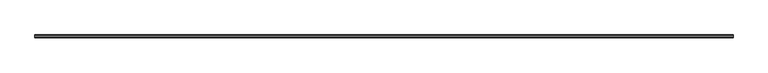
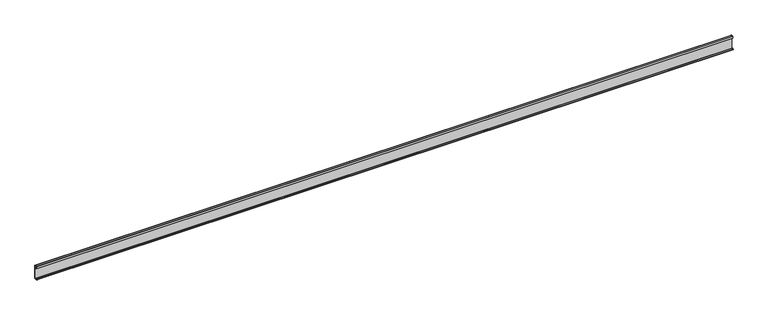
"""IFC4 building model written with IfcOpenShell, lengths in millimetres: proxy geometry, Weiku - Montante - Capa de folha 02.3.02.406 : Weiku - Montante - Capa de folha 02.3.02.406."""

from ifc_helpers import new_model, si_unit, point, frame, frame_2d, origin, place, context, project, spatial, polyline, circle_curve, trimmed, segment, composite_curve, outline, extrude, source, transform, mapped, element, save


def generic_models_bcc841bf(model_context):
    return source(origin(), model_context, "Body", "SweptSolid", [
        extrude(outline(composite_curve([segment(polyline([(-4.6421508, 2.2715508), (-3.3866, 1.016), (-1.6933, 1.016), (-1.6933, 25.684), (-3.3063, 25.684), (-3.3063, 22.3396), (-4.28, 22.3396), (-4.28, 26.2)]), True, "CONTINUOUS"), segment(trimmed(circle_curve(frame_2d((-3.78, 26.2)), 0.5), [point((-4.28, 26.2))], [point((-3.78, 26.7))], False, "CARTESIAN"), True, "CONTINUOUS"), segment(polyline([(-3.78, 26.7), (-0.5, 26.7)]), True, "CONTINUOUS"), segment(trimmed(circle_curve(frame_2d((-0.5, 26.2)), 0.5), [point((-0.5, 26.7))], [point((0.0, 26.2))], False, "CARTESIAN"), True, "CONTINUOUS"), segment(polyline([(0.0, 26.2), (0.0, 0.5)]), True, "CONTINUOUS"), segment(trimmed(circle_curve(frame_2d((-0.5, 0.5)), 0.5), [point((0.0, 0.5))], [point((-0.5, 0.0))], False, "CARTESIAN"), True, "CONTINUOUS"), segment(polyline([(-0.5, 0.0), (-4.7576991, 0.0)]), True, "CONTINUOUS"), segment(trimmed(circle_curve(frame_2d((-4.7576991, 0.7)), 0.7), [point((-4.7576991, 0.0))], [point((-5.3603515, 1.056104))], False, "CARTESIAN"), True, "CONTINUOUS"), segment(polyline([(-5.3603515, 1.056104), (-4.6421508, 2.2715508)]), True, "CONTINUOUS")], self_intersect=False)), frame((-668.0666667, 0.0, 0.0), z_axis=(1.0, 0.0, 0.0), x_axis=(0.0, 1.0, 0.0)), (0.0, 0.0, 1.0), 1336.1333333),
    ])


if __name__ == "__main__":
    model = new_model("IFC4")
    model_context = context("Model", 3, world=origin())
    ifc_project = project(units=[si_unit("LENGTHUNIT", "METRE", prefix="MILLI")], contexts=[model_context])
    site = spatial("IfcSite", under=ifc_project)
    building = spatial("IfcBuilding", under=site)
    placement = place(None, origin())
    generic_models_shape = generic_models_bcc841bf(model_context)
    element("IfcBuildingElementProxy", 1, Name="Weiku - Montante - Capa de folha 02.3.02.406 : Weiku - Montante - Capa de folha 02.3.02.406", ObjectType="Weiku - Montante - Capa de folha 02.3.02.406 : Weiku - Montante - Capa de folha 02.3.02.406", at=placement, inside=building, context=model_context, shape_type="MappedRepresentation", body=[
        mapped(generic_models_shape, transform((0.0, 0.0, 0.0), x_axis=(1.0, 0.0, 0.0), y_axis=(0.0, 1.0, 0.0), z_axis=(0.0, 0.0, 1.0))),
    ])
    save(model, "model.ifc")
